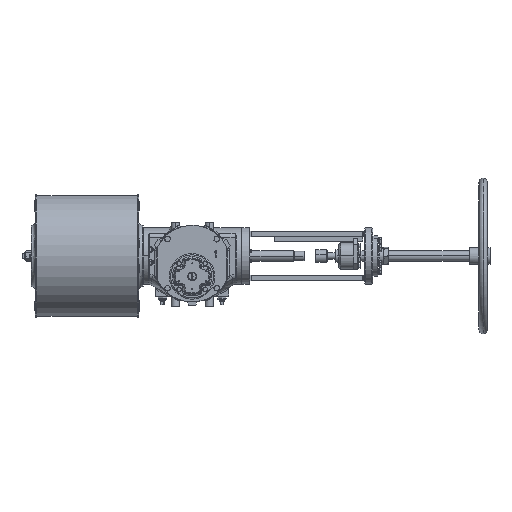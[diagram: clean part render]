
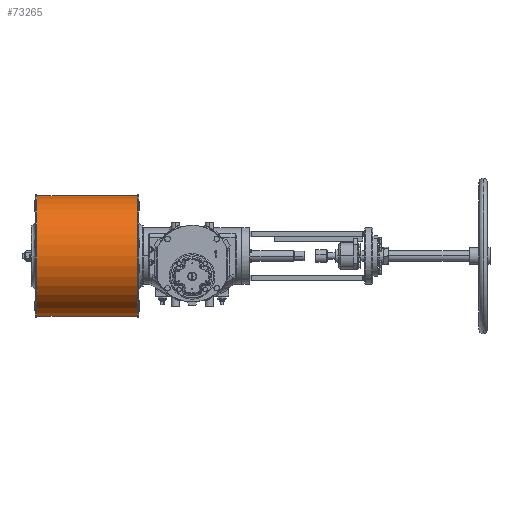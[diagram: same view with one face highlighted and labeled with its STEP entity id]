
A CAD part, top view. The second image highlights one B-rep face of the part: STEP entity #73265.
In plain terms, the highlighted cylindrical face has radius 177.8 mm (diameter 355.6 mm), a partial arc.
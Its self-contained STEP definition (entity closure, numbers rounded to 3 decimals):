
#1770 = CARTESIAN_POINT ( 'NONE',  ( -161.5, 22.5, 57.5 ) ) ;
#10712 = DIRECTION ( 'NONE',  ( 1., 0., 0. ) ) ;
#10987 = CARTESIAN_POINT ( 'NONE',  ( -456.5, 22.5, 57.5 ) ) ;
#12357 = CIRCLE ( 'NONE', #85437, 177.8 ) ;
#15031 = DIRECTION ( 'NONE',  ( 1., 0., 0. ) ) ;
#15262 = ORIENTED_EDGE ( 'NONE', *, *, #80705, .T. ) ;
#23897 = EDGE_CURVE ( 'NONE', #69567, #58124, #75601, .T. ) ;
#25887 = DIRECTION ( 'NONE',  ( 0., 1., 0. ) ) ;
#26929 = FACE_OUTER_BOUND ( 'NONE', #39678, .T. ) ;
#28005 = VERTEX_POINT ( 'NONE', #76588 ) ;
#31868 = DIRECTION ( 'NONE',  ( 0., 1., 0. ) ) ;
#39678 = EDGE_LOOP ( 'NONE', ( #103596, #63807, #15262, #59318 ) ) ;
#40359 = DIRECTION ( 'NONE',  ( 1., 0., 0. ) ) ;
#47446 = AXIS2_PLACEMENT_3D ( 'NONE', #10987, #49837, #25887 ) ;
#48583 = CARTESIAN_POINT ( 'NONE',  ( -456.5, 200.3, 57.5 ) ) ;
#49837 = DIRECTION ( 'NONE',  ( 1., 0., 0. ) ) ;
#50073 = VECTOR ( 'NONE', #15031, 1000. ) ;
#50211 = EDGE_CURVE ( 'NONE', #28005, #81035, #87412, .T. ) ;
#51107 = CARTESIAN_POINT ( 'NONE',  ( -456.5, 200.3, 57.5 ) ) ;
#54582 = AXIS2_PLACEMENT_3D ( 'NONE', #89851, #40359, #31868 ) ;
#56639 = CARTESIAN_POINT ( 'NONE',  ( -161.5, 200.3, 57.5 ) ) ;
#58124 = VERTEX_POINT ( 'NONE', #56639 ) ;
#59318 = ORIENTED_EDGE ( 'NONE', *, *, #23897, .F. ) ;
#63807 = ORIENTED_EDGE ( 'NONE', *, *, #50211, .T. ) ;
#66649 = DIRECTION ( 'NONE',  ( 0., 1., 0. ) ) ;
#69567 = VERTEX_POINT ( 'NONE', #48583 ) ;
#73265 = ADVANCED_FACE ( 'NONE', ( #26929 ), #98785, .T. ) ;
#74705 = CARTESIAN_POINT ( 'NONE',  ( -161.5, -155.3, 57.5 ) ) ;
#75601 = LINE ( 'NONE', #51107, #94296 ) ;
#76588 = CARTESIAN_POINT ( 'NONE',  ( -456.5, -155.3, 57.5 ) ) ;
#76880 = EDGE_CURVE ( 'NONE', #69567, #28005, #83522, .T. ) ;
#80705 = EDGE_CURVE ( 'NONE', #81035, #58124, #12357, .T. ) ;
#81035 = VERTEX_POINT ( 'NONE', #74705 ) ;
#83158 = DIRECTION ( 'NONE',  ( -1., 0., 0. ) ) ;
#83522 = CIRCLE ( 'NONE', #54582, 177.8 ) ;
#85437 = AXIS2_PLACEMENT_3D ( 'NONE', #1770, #83158, #66649 ) ;
#87412 = LINE ( 'NONE', #87945, #50073 ) ;
#87945 = CARTESIAN_POINT ( 'NONE',  ( -456.5, -155.3, 57.5 ) ) ;
#89851 = CARTESIAN_POINT ( 'NONE',  ( -456.5, 22.5, 57.5 ) ) ;
#94296 = VECTOR ( 'NONE', #10712, 1000. ) ;
#98785 = CYLINDRICAL_SURFACE ( 'NONE', #47446, 177.8 ) ;
#103596 = ORIENTED_EDGE ( 'NONE', *, *, #76880, .T. ) ;
